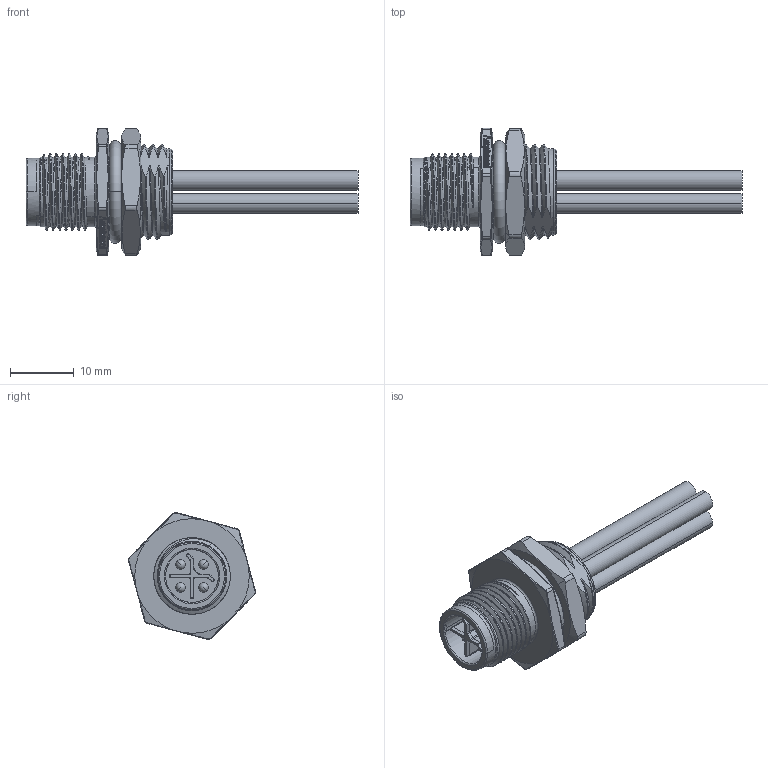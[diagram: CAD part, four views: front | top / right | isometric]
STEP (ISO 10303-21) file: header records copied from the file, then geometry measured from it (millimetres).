
FILE_DESCRIPTION((''),'2;1');
FILE_NAME('M12S-04PMMS-SH8BXX','2015-08-19T',('ks6143'),(''),'PRO/ENGINEER BY PARAMETRIC TECHNOLOGY CORPORATION, 2013050','PRO/ENGINEER BY PARAMETRIC TECHNOLOGY CORPORATION, 2013050','');
FILE_SCHEMA(('CONFIG_CONTROL_DESIGN'));
Products named in the file (1): M12S-04PMMS-SH8BXX
Bounding box: 52.11 x 19.98 x 19.94 mm (x, y, z)
Volume: 3812.3 mm3; surface area: 5464.4 mm2
Topology: 1 solids, 1 shells, 610 faces, 1661 edges, 1082 vertices
Faces by surface type: plane 271, cylinder 106, bspline 96, extrusion 80, cone 37, torus 12, sphere 8
Entity records: 46575 total; most frequent: CARTESIAN_POINT 28307, ORIENTED_EDGE 3306, DIRECTION 2343, EDGE_CURVE 1653, VERTEX_POINT 1082, VECTOR 923, LINE 843, AXIS2_PLACEMENT_3D 710
